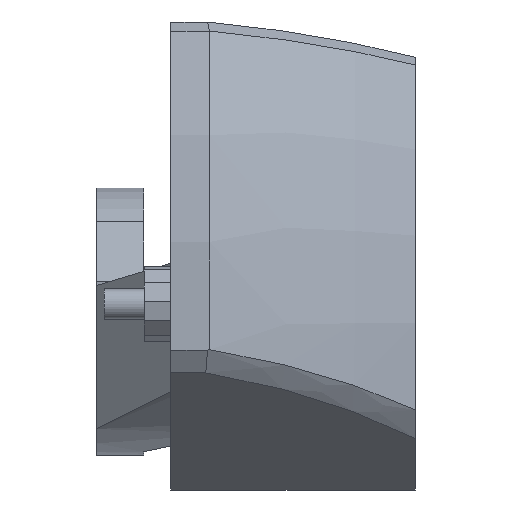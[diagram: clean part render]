
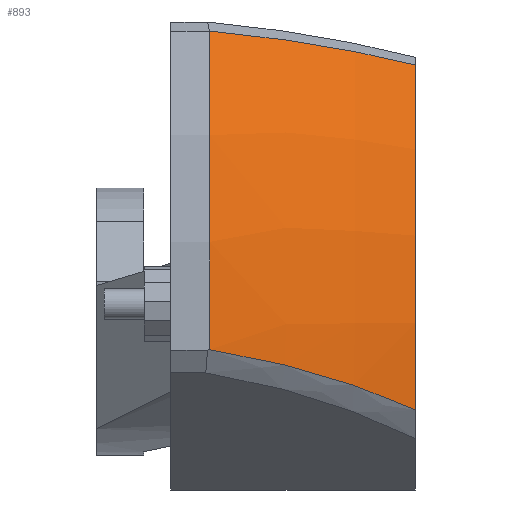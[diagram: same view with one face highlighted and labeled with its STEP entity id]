
A CAD part, left-side view. The second image highlights one B-rep face of the part: STEP entity #893.
In plain terms, the highlighted toroidal (fillet/blend) face has major radius 200 mm and minor radius 510 mm.
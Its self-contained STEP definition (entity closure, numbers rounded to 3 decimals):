
#195 = EDGE_LOOP ( 'NONE', ( #725, #853, #630, #284 ) ) ;
#233 = CARTESIAN_POINT ( 'NONE',  ( -490.996, -137.298, 642.746 ) ) ;
#284 = ORIENTED_EDGE ( 'NONE', *, *, #685, .T. ) ;
#323 = FACE_OUTER_BOUND ( 'NONE', #195, .T. ) ;
#324 = TOROIDAL_SURFACE ( 'NONE', #325, 200., 510. ) ;
#325 = AXIS2_PLACEMENT_3D ( 'NONE', #326, #327, #328 ) ;
#326 = CARTESIAN_POINT ( 'NONE',  ( 200., -3., 680. ) ) ;
#327 = DIRECTION ( 'NONE',  ( 0., 1., 0. ) ) ;
#328 = DIRECTION ( 'NONE',  ( 0., 0., 1. ) ) ;
#410 = CARTESIAN_POINT ( 'NONE',  ( -404.451, -305.5, 593.548 ) ) ;
#447 = B_SPLINE_CURVE_WITH_KNOTS ( 'NONE', 3,
 ( #448, #449, #450, #451, #452, #453, #454, #455, #456, #457 ),
 .UNSPECIFIED., .F., .F.,
 ( 4, 2, 2, 2, 4 ),
 ( 0., 0.25, 0.5, 0.75, 1. ),
 .UNSPECIFIED. ) ;
#448 = CARTESIAN_POINT ( 'NONE',  ( -378.538, -305.5, 875.263 ) ) ;
#449 = CARTESIAN_POINT ( 'NONE',  ( -386.516, -293.98, 878.165 ) ) ;
#450 = CARTESIAN_POINT ( 'NONE',  ( -394.227, -281.83, 880.971 ) ) ;
#451 = CARTESIAN_POINT ( 'NONE',  ( -408.923, -256.261, 886.317 ) ) ;
#452 = CARTESIAN_POINT ( 'NONE',  ( -415.907, -242.843, 888.858 ) ) ;
#453 = CARTESIAN_POINT ( 'NONE',  ( -428.942, -214.76, 893.6 ) ) ;
#454 = CARTESIAN_POINT ( 'NONE',  ( -434.992, -200.094, 895.801 ) ) ;
#455 = CARTESIAN_POINT ( 'NONE',  ( -445.941, -169.569, 899.784 ) ) ;
#456 = CARTESIAN_POINT ( 'NONE',  ( -450.84, -153.71, 901.566 ) ) ;
#457 = CARTESIAN_POINT ( 'NONE',  ( -455.052, -137.298, 903.094 ) ) ;
#592 = EDGE_CURVE ( 'NONE', #678, #789, #1352, .T. ) ;
#630 = ORIENTED_EDGE ( 'NONE', *, *, #592, .T. ) ;
#678 = VERTEX_POINT ( 'NONE', #410 ) ;
#685 = EDGE_CURVE ( 'NONE', #789, #714, #447, .T. ) ;
#714 = VERTEX_POINT ( 'NONE', #1421 ) ;
#725 = ORIENTED_EDGE ( 'NONE', *, *, #1215, .F. ) ;
#789 = VERTEX_POINT ( 'NONE', #1151 ) ;
#853 = ORIENTED_EDGE ( 'NONE', *, *, #1582, .T. ) ;
#893 = ADVANCED_FACE ( 'NONE', ( #323 ), #324, .T. ) ;
#1151 = CARTESIAN_POINT ( 'NONE',  ( -378.538, -305.5, 875.263 ) ) ;
#1215 = EDGE_CURVE ( 'NONE', #1547, #714, #1394, .T. ) ;
#1228 = B_SPLINE_CURVE_WITH_KNOTS ( 'NONE', 3,
 ( #1229, #1230, #1231, #1232, #1233, #1234, #1235, #1236, #1237, #1238, #1239, #1240, #1241, #1242, #1243, #1244, #1245, #1246, #1247, #1248, #1249, #1251, #1252 ),
 .UNSPECIFIED., .F., .F.,
 ( 4, 2, 2, 2, 1, 1, 1, 1, 1, 1, 1, 2, 2, 2, 4 ),
 ( 0., 0.25, 0.375, 0.438, 0.469, 0.484, 0.492, 0.496, 0.498, 0.499, 0.5, 0.5, 0.5, 0.75, 1. ),
 .UNSPECIFIED. ) ;
#1229 = CARTESIAN_POINT ( 'NONE',  ( -490.996, -137.298, 642.746 ) ) ;
#1230 = CARTESIAN_POINT ( 'NONE',  ( -486.456, -153.398, 640.162 ) ) ;
#1231 = CARTESIAN_POINT ( 'NONE',  ( -481.181, -168.93, 637.163 ) ) ;
#1232 = CARTESIAN_POINT ( 'NONE',  ( -472.325, -191.318, 632.123 ) ) ;
#1233 = CARTESIAN_POINT ( 'NONE',  ( -469.216, -198.63, 630.354 ) ) ;
#1234 = CARTESIAN_POINT ( 'NONE',  ( -464.335, -209.365, 627.576 ) ) ;
#1235 = CARTESIAN_POINT ( 'NONE',  ( -462.672, -212.905, 626.63 ) ) ;
#1236 = CARTESIAN_POINT ( 'NONE',  ( -460.125, -218.157, 625.181 ) ) ;
#1237 = CARTESIAN_POINT ( 'NONE',  ( -458.839, -220.768, 624.449 ) ) ;
#1238 = CARTESIAN_POINT ( 'NONE',  ( -457.316, -223.789, 623.583 ) ) ;
#1239 = CARTESIAN_POINT ( 'NONE',  ( -456.549, -225.293, 623.147 ) ) ;
#1240 = CARTESIAN_POINT ( 'NONE',  ( -456.164, -226.043, 622.928 ) ) ;
#1241 = CARTESIAN_POINT ( 'NONE',  ( -455.971, -226.418, 622.818 ) ) ;
#1242 = CARTESIAN_POINT ( 'NONE',  ( -455.875, -226.606, 622.764 ) ) ;
#1243 = CARTESIAN_POINT ( 'NONE',  ( -455.826, -226.699, 622.736 ) ) ;
#1244 = CARTESIAN_POINT ( 'NONE',  ( -455.806, -226.739, 622.724 ) ) ;
#1245 = CARTESIAN_POINT ( 'NONE',  ( -455.792, -226.766, 622.716 ) ) ;
#1246 = CARTESIAN_POINT ( 'NONE',  ( -455.785, -226.778, 622.713 ) ) ;
#1247 = CARTESIAN_POINT ( 'NONE',  ( -448.184, -241.514, 618.391 ) ) ;
#1248 = CARTESIAN_POINT ( 'NONE',  ( -440.022, -255.427, 613.753 ) ) ;
#1249 = CARTESIAN_POINT ( 'NONE',  ( -422.828, -281.65, 603.984 ) ) ;
#1251 = CARTESIAN_POINT ( 'NONE',  ( -413.797, -293.961, 598.853 ) ) ;
#1252 = CARTESIAN_POINT ( 'NONE',  ( -404.451, -305.5, 593.548 ) ) ;
#1352 = CIRCLE ( 'NONE', #1353, 610.602 ) ;
#1353 = AXIS2_PLACEMENT_3D ( 'NONE', #1354, #1355, #1356 ) ;
#1354 = CARTESIAN_POINT ( 'NONE',  ( 200., -305.5, 680. ) ) ;
#1355 = DIRECTION ( 'NONE',  ( 0., 1., 0. ) ) ;
#1356 = DIRECTION ( 'NONE',  ( 0., 0., 1. ) ) ;
#1394 = CIRCLE ( 'NONE', #1395, 692. ) ;
#1395 = AXIS2_PLACEMENT_3D ( 'NONE', #1396, #1397, #1398 ) ;
#1396 = CARTESIAN_POINT ( 'NONE',  ( 200., -137.298, 680. ) ) ;
#1397 = DIRECTION ( 'NONE',  ( 0., 1., 0. ) ) ;
#1398 = DIRECTION ( 'NONE',  ( 0., 0., 1. ) ) ;
#1421 = CARTESIAN_POINT ( 'NONE',  ( -455.052, -137.298, 903.094 ) ) ;
#1547 = VERTEX_POINT ( 'NONE', #233 ) ;
#1582 = EDGE_CURVE ( 'NONE', #1547, #678, #1228, .T. ) ;
